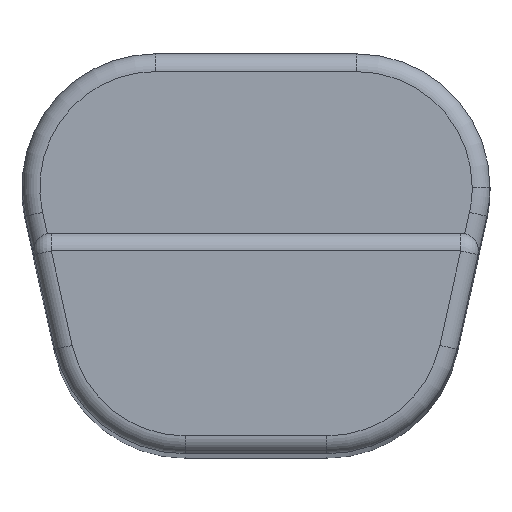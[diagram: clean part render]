
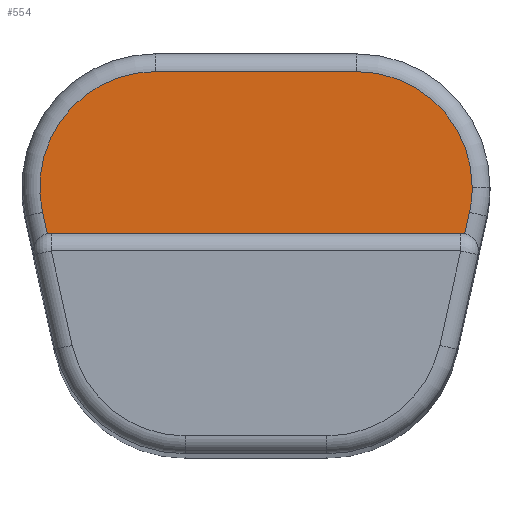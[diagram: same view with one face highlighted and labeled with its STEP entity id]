
A CAD part, top view. The second image highlights one B-rep face of the part: STEP entity #554.
In plain terms, the highlighted planar face has unit normal (0, 0, 1).
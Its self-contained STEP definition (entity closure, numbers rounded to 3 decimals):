
#6 = VECTOR ( 'NONE', #1122, 1000. ) ;
#39 = CARTESIAN_POINT ( 'NONE',  ( 5.65, 5., 57.5 ) ) ;
#43 = DIRECTION ( 'NONE',  ( -1., 0., 0. ) ) ;
#64 = VECTOR ( 'NONE', #346, 1000. ) ;
#66 = ORIENTED_EDGE ( 'NONE', *, *, #1202, .F. ) ;
#74 = ORIENTED_EDGE ( 'NONE', *, *, #658, .T. ) ;
#101 = ORIENTED_EDGE ( 'NONE', *, *, #1082, .T. ) ;
#104 = ORIENTED_EDGE ( 'NONE', *, *, #907, .T. ) ;
#145 = DIRECTION ( 'NONE',  ( 1., 0., 0. ) ) ;
#148 = FACE_OUTER_BOUND ( 'NONE', #209, .T. ) ;
#173 = VERTEX_POINT ( 'NONE', #812 ) ;
#181 = CARTESIAN_POINT ( 'NONE',  ( 5.65, 5., 57.5 ) ) ;
#182 = DIRECTION ( 'NONE',  ( 0., 0., 1. ) ) ;
#196 = CARTESIAN_POINT ( 'NONE',  ( 11.508, 2.397, 57.5 ) ) ;
#209 = EDGE_LOOP ( 'NONE', ( #605, #1409, #104, #66, #783, #684, #477, #101, #74 ) ) ;
#216 = CARTESIAN_POINT ( 'NONE',  ( 11.464, 1.197, 57.5 ) ) ;
#223 = DIRECTION ( 'NONE',  ( 1., 0., 0. ) ) ;
#259 = CIRCLE ( 'NONE', #953, 6.5 ) ;
#311 = LINE ( 'NONE', #844, #616 ) ;
#346 = DIRECTION ( 'NONE',  ( -1., 0., 0. ) ) ;
#446 = CIRCLE ( 'NONE', #1426, 6.5 ) ;
#465 = LINE ( 'NONE', #1533, #64 ) ;
#477 = ORIENTED_EDGE ( 'NONE', *, *, #1459, .T. ) ;
#494 = CARTESIAN_POINT ( 'NONE',  ( 5.65, 11.5, 57.5 ) ) ;
#512 = DIRECTION ( 'NONE',  ( 0., 0., -1. ) ) ;
#549 = VERTEX_POINT ( 'NONE', #1584 ) ;
#554 = ADVANCED_FACE ( 'NONE', ( #148 ), #681, .T. ) ;
#575 = EDGE_CURVE ( 'NONE', #1118, #969, #581, .T. ) ;
#578 = CARTESIAN_POINT ( 'NONE',  ( -11.508, 2.397, 57.5 ) ) ;
#580 = LINE ( 'NONE', #216, #6 ) ;
#581 = CIRCLE ( 'NONE', #1473, 1. ) ;
#605 = ORIENTED_EDGE ( 'NONE', *, *, #1568, .T. ) ;
#616 = VECTOR ( 'NONE', #1372, 1000. ) ;
#658 = EDGE_CURVE ( 'NONE', #1284, #859, #1509, .T. ) ;
#667 = DIRECTION ( 'NONE',  ( 1., 0., 0. ) ) ;
#681 = PLANE ( 'NONE',  #1119 ) ;
#684 = ORIENTED_EDGE ( 'NONE', *, *, #1105, .T. ) ;
#706 = DIRECTION ( 'NONE',  ( 0., 0., 1. ) ) ;
#708 = DIRECTION ( 'NONE',  ( 0., 0., 1. ) ) ;
#783 = ORIENTED_EDGE ( 'NONE', *, *, #575, .T. ) ;
#785 = VECTOR ( 'NONE', #1491, 1000. ) ;
#812 = CARTESIAN_POINT ( 'NONE',  ( 11.996, 3.59, 57.5 ) ) ;
#844 = CARTESIAN_POINT ( 'NONE',  ( -11.996, 3.59, 57.5 ) ) ;
#859 = VERTEX_POINT ( 'NONE', #1166 ) ;
#907 = EDGE_CURVE ( 'NONE', #1263, #1629, #1447, .T. ) ;
#953 = AXIS2_PLACEMENT_3D ( 'NONE', #181, #708, #145 ) ;
#965 = CARTESIAN_POINT ( 'NONE',  ( 11.725, 2.373, 57.5 ) ) ;
#966 = CARTESIAN_POINT ( 'NONE',  ( -5.65, 11.5, 57.5 ) ) ;
#969 = VERTEX_POINT ( 'NONE', #965 ) ;
#1052 = DIRECTION ( 'NONE',  ( 1., 0., 0. ) ) ;
#1073 = EDGE_CURVE ( 'NONE', #549, #1263, #311, .T. ) ;
#1082 = EDGE_CURVE ( 'NONE', #1391, #1284, #259, .T. ) ;
#1105 = EDGE_CURVE ( 'NONE', #969, #173, #580, .T. ) ;
#1118 = VERTEX_POINT ( 'NONE', #196 ) ;
#1119 = AXIS2_PLACEMENT_3D ( 'NONE', #1225, #182, #43 ) ;
#1121 = AXIS2_PLACEMENT_3D ( 'NONE', #1461, #512, #1052 ) ;
#1122 = DIRECTION ( 'NONE',  ( 0.217, 0.976, 0. ) ) ;
#1166 = CARTESIAN_POINT ( 'NONE',  ( -5.65, 11.5, 57.5 ) ) ;
#1202 = EDGE_CURVE ( 'NONE', #1118, #1629, #465, .T. ) ;
#1218 = DIRECTION ( 'NONE',  ( 0., 0., -1. ) ) ;
#1225 = CARTESIAN_POINT ( 'NONE',  ( -5.65, 5., 57.5 ) ) ;
#1263 = VERTEX_POINT ( 'NONE', #1432 ) ;
#1278 = DIRECTION ( 'NONE',  ( 0., 0., 1. ) ) ;
#1284 = VERTEX_POINT ( 'NONE', #494 ) ;
#1328 = CARTESIAN_POINT ( 'NONE',  ( 12.15, 5., 57.5 ) ) ;
#1372 = DIRECTION ( 'NONE',  ( 0.217, -0.976, 0. ) ) ;
#1373 = DIRECTION ( 'NONE',  ( 1., 0., 0. ) ) ;
#1378 = CARTESIAN_POINT ( 'NONE',  ( -5.65, 5., 57.5 ) ) ;
#1391 = VERTEX_POINT ( 'NONE', #1328 ) ;
#1409 = ORIENTED_EDGE ( 'NONE', *, *, #1073, .T. ) ;
#1426 = AXIS2_PLACEMENT_3D ( 'NONE', #1378, #1278, #223 ) ;
#1432 = CARTESIAN_POINT ( 'NONE',  ( -11.725, 2.373, 57.5 ) ) ;
#1447 = CIRCLE ( 'NONE', #1121, 1. ) ;
#1459 = EDGE_CURVE ( 'NONE', #173, #1391, #1641, .T. ) ;
#1461 = CARTESIAN_POINT ( 'NONE',  ( -11.508, 1.397, 57.5 ) ) ;
#1473 = AXIS2_PLACEMENT_3D ( 'NONE', #1632, #1218, #1373 ) ;
#1491 = DIRECTION ( 'NONE',  ( -1., 0., 0. ) ) ;
#1506 = AXIS2_PLACEMENT_3D ( 'NONE', #39, #706, #667 ) ;
#1509 = LINE ( 'NONE', #966, #785 ) ;
#1533 = CARTESIAN_POINT ( 'NONE',  ( 12.755, 2.397, 57.5 ) ) ;
#1568 = EDGE_CURVE ( 'NONE', #859, #549, #446, .T. ) ;
#1584 = CARTESIAN_POINT ( 'NONE',  ( -11.996, 3.59, 57.5 ) ) ;
#1629 = VERTEX_POINT ( 'NONE', #578 ) ;
#1632 = CARTESIAN_POINT ( 'NONE',  ( 11.508, 1.397, 57.5 ) ) ;
#1641 = CIRCLE ( 'NONE', #1506, 6.5 ) ;
